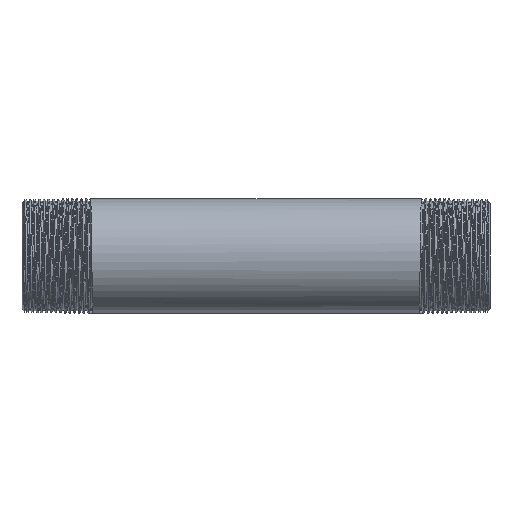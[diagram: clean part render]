
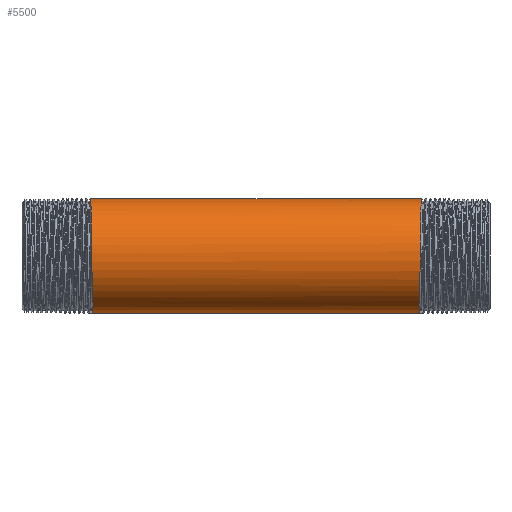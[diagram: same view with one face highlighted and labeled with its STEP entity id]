
A CAD part, front view. The second image highlights one B-rep face of the part: STEP entity #5500.
In plain terms, the highlighted cylindrical face has radius 8.6 mm (diameter 17.2 mm), a partial arc.
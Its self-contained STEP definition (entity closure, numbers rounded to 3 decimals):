
#69 = ORIENTED_EDGE ( 'NONE', *, *, #2690, .T. ) ;
#70 = CYLINDRICAL_SURFACE ( 'NONE', #272, 8.6 ) ;
#227 = DIRECTION ( 'NONE',  ( -1., 0., 0. ) ) ;
#272 = AXIS2_PLACEMENT_3D ( 'NONE', #6361, #6310, #5294 ) ;
#438 = CARTESIAN_POINT ( 'NONE',  ( 24.443, -4.133, -7.544 ) ) ;
#497 = CARTESIAN_POINT ( 'NONE',  ( 24.622, -7.396, 4.388 ) ) ;
#552 = CARTESIAN_POINT ( 'NONE',  ( 24.662, -5.287, 6.876 ) ) ;
#609 = CARTESIAN_POINT ( 'NONE',  ( 24.465, -5.466, -6.676 ) ) ;
#721 = CARTESIAN_POINT ( 'NONE',  ( 24.728, -0.703, 8.572 ) ) ;
#777 = CARTESIAN_POINT ( 'NONE',  ( 24.722, -1.123, 8.531 ) ) ;
#833 = CARTESIAN_POINT ( 'NONE',  ( 24.737, -0.033, 8.6 ) ) ;
#956 = CARTESIAN_POINT ( 'NONE',  ( -24.621, -7.448, 4.3 ) ) ;
#1278 = CARTESIAN_POINT ( 'NONE',  ( -24.388, 0., -8.6 ) ) ;
#1281 = CARTESIAN_POINT ( 'NONE',  ( 24.619, -7.517, 4.178 ) ) ;
#1341 = CARTESIAN_POINT ( 'NONE',  ( 24.597, -8.237, 2.544 ) ) ;
#1399 = CARTESIAN_POINT ( 'NONE',  ( 24.641, -6.481, 5.681 ) ) ;
#1565 = CARTESIAN_POINT ( 'NONE',  ( 24.718, -1.402, 8.49 ) ) ;
#1795 = CARTESIAN_POINT ( 'NONE',  ( 24.736, -0.141, 8.599 ) ) ;
#1957 = EDGE_CURVE ( 'NONE', #6493, #3374, #6729, .T. ) ;
#2136 = CARTESIAN_POINT ( 'NONE',  ( 24.613, -7.751, 3.734 ) ) ;
#2253 = CARTESIAN_POINT ( 'NONE',  ( 24.634, -6.84, 5.244 ) ) ;
#2281 = CARTESIAN_POINT ( 'NONE',  ( 24.388, 0., -8.6 ) ) ;
#2363 = CARTESIAN_POINT ( 'NONE',  ( 24.552, -8.598, -0.766 ) ) ;
#2690 = EDGE_CURVE ( 'NONE', #5296, #6493, #11225, .T. ) ;
#2834 = CARTESIAN_POINT ( 'NONE',  ( -24.563, -9.93, 0. ) ) ;
#3049 = CARTESIAN_POINT ( 'NONE',  ( 24.388, 0., -8.6 ) ) ;
#3110 = CARTESIAN_POINT ( 'NONE',  ( 24.621, -7.439, 4.316 ) ) ;
#3223 = CARTESIAN_POINT ( 'NONE',  ( 24.446, -4.297, -7.452 ) ) ;
#3335 = CARTESIAN_POINT ( 'NONE',  ( 24.738, 0., 8.6 ) ) ;
#3374 = VERTEX_POINT ( 'NONE', #7636 ) ;
#3470 = LINE ( 'NONE', #3526, #10204 ) ;
#3526 = CARTESIAN_POINT ( 'NONE',  ( -149.494, 0., -8.6 ) ) ;
#3960 = CARTESIAN_POINT ( 'NONE',  ( 24.624, -7.315, 4.524 ) ) ;
#4018 = CARTESIAN_POINT ( 'NONE',  ( 24.676, -4.333, 7.514 ) ) ;
#4076 = CARTESIAN_POINT ( 'NONE',  ( 24.411, -1.843, -8.416 ) ) ;
#4133 = CARTESIAN_POINT ( 'NONE',  ( 24.502, -7.351, -4.465 ) ) ;
#4220 = EDGE_CURVE ( 'NONE', #5296, #6590, #3470, .T. ) ;
#4240 = VECTOR ( 'NONE', #9224, 1000. ) ;
#4699 = CARTESIAN_POINT ( 'NONE',  ( 24.738, 0., 8.6 ) ) ;
#4756 = CARTESIAN_POINT ( 'NONE',  ( 24.501, -7.295, -4.555 ) ) ;
#4811 = CARTESIAN_POINT ( 'NONE',  ( 24.604, -8.051, 3.062 ) ) ;
#4871 = CARTESIAN_POINT ( 'NONE',  ( 24.574, -8.559, 0.855 ) ) ;
#4979 = CARTESIAN_POINT ( 'NONE',  ( 24.527, -8.214, -2.62 ) ) ;
#5035 = CARTESIAN_POINT ( 'NONE',  ( 24.731, -0.493, 8.588 ) ) ;
#5210 = CARTESIAN_POINT ( 'NONE',  ( 24.699, -2.772, 8.16 ) ) ;
#5294 = DIRECTION ( 'NONE',  ( 0., 0., 1. ) ) ;
#5296 = VERTEX_POINT ( 'NONE', #2281 ) ;
#5500 = ADVANCED_FACE ( 'NONE', ( #7853 ), #70, .T. ) ;
#5607 = CARTESIAN_POINT ( 'NONE',  ( 24.616, -7.647, 3.941 ) ) ;
#5663 = CARTESIAN_POINT ( 'NONE',  ( 24.397, -0.824, -8.576 ) ) ;
#5722 = CARTESIAN_POINT ( 'NONE',  ( 24.567, -8.595, 0.341 ) ) ;
#5837 = CARTESIAN_POINT ( 'NONE',  ( 24.512, -7.739, -3.759 ) ) ;
#5948 = CARTESIAN_POINT ( 'NONE',  ( 24.734, -0.246, 8.597 ) ) ;
#6268 = ORIENTED_EDGE ( 'NONE', *, *, #1957, .T. ) ;
#6310 = DIRECTION ( 'NONE',  ( -1., 0., 0. ) ) ;
#6352 = CARTESIAN_POINT ( 'NONE',  ( -24.679, -4.965, 8.6 ) ) ;
#6361 = CARTESIAN_POINT ( 'NONE',  ( -149.494, 0., 0. ) ) ;
#6456 = CARTESIAN_POINT ( 'NONE',  ( 24.581, -8.5, 1.348 ) ) ;
#6493 = VERTEX_POINT ( 'NONE', #4699 ) ;
#6514 = CARTESIAN_POINT ( 'NONE',  ( 24.453, -4.755, -7.168 ) ) ;
#6590 = VERTEX_POINT ( 'NONE', #1278 ) ;
#6634 = CARTESIAN_POINT ( 'NONE',  ( 24.436, -3.651, -7.795 ) ) ;
#6675 = CARTESIAN_POINT ( 'NONE',  ( -149.494, 0., 8.6 ) ) ;
#6687 = CARTESIAN_POINT ( 'NONE',  ( 24.505, -7.5, -4.208 ) ) ;
#6729 = LINE ( 'NONE', #6675, #4240 ) ;
#6919 =( BOUNDED_CURVE ( )  B_SPLINE_CURVE ( 2, ( #8910, #7044, #10504, #2834, #956, #6352, #8110, #7153, #10614 ),
 .UNSPECIFIED., .F., .T. ) 
 B_SPLINE_CURVE_WITH_KNOTS ( ( 3, 2, 2, 2, 3 ),
 ( 0., 0.008, 0.016, 0.023, 0.023 ),
 .UNSPECIFIED. ) 
 CURVE ( )  GEOMETRIC_REPRESENTATION_ITEM ( )  RATIONAL_B_SPLINE_CURVE ( ( 1., 0.866, 1., 0.866, 1., 0.866, 1., 1., 1. ) ) 
 REPRESENTATION_ITEM ( '' )  );
#7044 = CARTESIAN_POINT ( 'NONE',  ( -24.446, -4.965, -8.6 ) ) ;
#7153 = CARTESIAN_POINT ( 'NONE',  ( -24.738, 0., 8.6 ) ) ;
#7365 = CARTESIAN_POINT ( 'NONE',  ( 24.506, -7.524, -4.166 ) ) ;
#7423 = CARTESIAN_POINT ( 'NONE',  ( 24.626, -7.231, 4.658 ) ) ;
#7479 = CARTESIAN_POINT ( 'NONE',  ( 24.473, -5.934, -6.251 ) ) ;
#7590 = CARTESIAN_POINT ( 'NONE',  ( 24.392, -0.377, -8.6 ) ) ;
#7636 = CARTESIAN_POINT ( 'NONE',  ( -24.738, 0., 8.6 ) ) ;
#7823 = ORIENTED_EDGE ( 'NONE', *, *, #9310, .F. ) ;
#7853 = FACE_OUTER_BOUND ( 'NONE', #10648, .T. ) ;
#8110 = CARTESIAN_POINT ( 'NONE',  ( -24.738, 0., 8.6 ) ) ;
#8217 = CARTESIAN_POINT ( 'NONE',  ( 24.62, -7.478, 4.248 ) ) ;
#8274 = CARTESIAN_POINT ( 'NONE',  ( 24.622, -7.414, 4.358 ) ) ;
#8330 = CARTESIAN_POINT ( 'NONE',  ( 24.585, -8.444, 1.66 ) ) ;
#8442 = CARTESIAN_POINT ( 'NONE',  ( 24.565, -8.6, 0.168 ) ) ;
#8496 = CARTESIAN_POINT ( 'NONE',  ( 24.737, -0.07, 8.6 ) ) ;
#8644 = ORIENTED_EDGE ( 'NONE', *, *, #4220, .F. ) ;
#8910 = CARTESIAN_POINT ( 'NONE',  ( -24.388, 0., -8.6 ) ) ;
#9071 = CARTESIAN_POINT ( 'NONE',  ( 24.488, -6.7, -5.421 ) ) ;
#9127 = CARTESIAN_POINT ( 'NONE',  ( 24.504, -7.428, -4.334 ) ) ;
#9182 = CARTESIAN_POINT ( 'NONE',  ( 24.431, -3.335, -7.934 ) ) ;
#9224 = DIRECTION ( 'NONE',  ( -1., 0., 0. ) ) ;
#9292 = CARTESIAN_POINT ( 'NONE',  ( 24.52, -8.026, -3.124 ) ) ;
#9310 = EDGE_CURVE ( 'NONE', #6590, #3374, #6919, .T. ) ;
#9920 = CARTESIAN_POINT ( 'NONE',  ( 24.572, -8.574, 0.686 ) ) ;
#9976 = CARTESIAN_POINT ( 'NONE',  ( 24.418, -2.416, -8.28 ) ) ;
#10035 = CARTESIAN_POINT ( 'NONE',  ( 24.494, -6.999, -5.016 ) ) ;
#10148 = CARTESIAN_POINT ( 'NONE',  ( 24.509, -7.642, -3.95 ) ) ;
#10204 = VECTOR ( 'NONE', #227, 1000. ) ;
#10504 = CARTESIAN_POINT ( 'NONE',  ( -24.504, -7.448, -4.3 ) ) ;
#10614 = CARTESIAN_POINT ( 'NONE',  ( -24.738, 0., 8.6 ) ) ;
#10648 = EDGE_LOOP ( 'NONE', ( #8644, #69, #6268, #7823 ) ) ;
#10827 = CARTESIAN_POINT ( 'NONE',  ( 24.451, -4.607, -7.264 ) ) ;
#10885 = CARTESIAN_POINT ( 'NONE',  ( 24.622, -7.419, 4.349 ) ) ;
#10998 = CARTESIAN_POINT ( 'NONE',  ( 24.504, -7.454, -4.29 ) ) ;
#11053 = CARTESIAN_POINT ( 'NONE',  ( 24.543, -8.5, -1.441 ) ) ;
#11169 = CARTESIAN_POINT ( 'NONE',  ( 24.706, -2.231, 8.325 ) ) ;
#11225 = B_SPLINE_CURVE_WITH_KNOTS ( 'NONE', 3,
 ( #3049, #7590, #5663, #4076, #9976, #9182, #6634, #438, #3223, #10827, #6514, #609, #7479, #9071, #10035, #4756, #4133, #9127, #10998, #6687, #7365, #10148, #5837, #9292, #4979, #11053, #2363, #8442, #5722, #9920, #4871, #6456, #8330, #1341, #4811, #2136, #5607, #1281, #8217, #3110, #10885, #8274, #497, #3960, #7423, #2253, #1399, #552, #4018, #5210, #11169, #1565, #777, #721, #5035, #5948, #1795, #8496, #833, #3335 ),
 .UNSPECIFIED., .F., .F.,
 ( 4, 2, 2, 2, 2, 2, 2, 2, 2, 2, 2, 2, 2, 2, 2, 2, 2, 2, 2, 1, 2, 2, 1, 2, 2, 2, 2, 2, 1, 1, 2, 4 ),
 ( 0., 0.001, 0.003, 0.004, 0.004, 0.004, 0.006, 0.007, 0.008, 0.008, 0.008, 0.009, 0.01, 0.012, 0.012, 0.012, 0.013, 0.015, 0.015, 0.015, 0.016, 0.016, 0.016, 0.016, 0.018, 0.02, 0.022, 0.023, 0.023, 0.023, 0.023, 0.023 ),
 .UNSPECIFIED. ) ;
